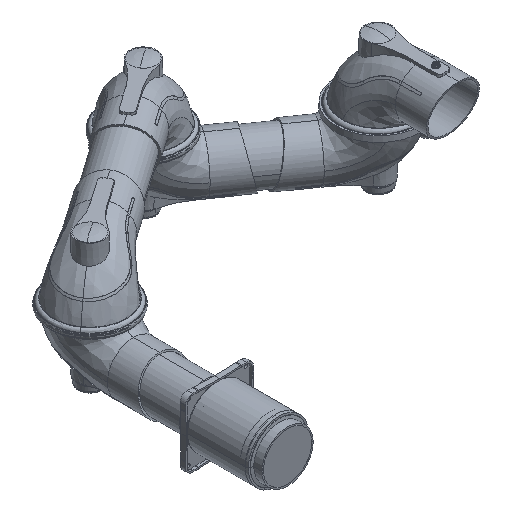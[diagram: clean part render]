
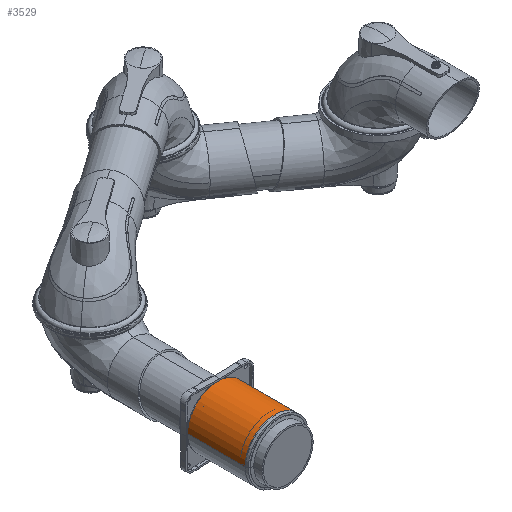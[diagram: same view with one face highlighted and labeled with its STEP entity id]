
A CAD part, isometric view. The second image highlights one B-rep face of the part: STEP entity #3529.
In plain terms, the highlighted cylindrical face has radius 62.5 mm (diameter 125 mm), a partial arc.
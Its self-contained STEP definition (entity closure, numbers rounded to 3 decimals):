
#3449=CARTESIAN_POINT('',(0.,0.,0.));
#3450=DIRECTION('',(1.,0.,0.));
#3451=DIRECTION('',(0.,1.,0.));
#3452=AXIS2_PLACEMENT_3D('',#3449,#3450,#3451);
#3457=DIRECTION('',(-1.,0.,0.));
#3458=VECTOR('',#3457,119.);
#3459=CARTESIAN_POINT('',(0.,62.5,0.));
#3460=LINE('',#3459,#3458);
#3464=DIRECTION('',(-1.,0.,0.));
#3465=VECTOR('',#3464,119.);
#3466=CARTESIAN_POINT('',(0.,-62.5,0.));
#3467=LINE('',#3466,#3465);
#3487=CARTESIAN_POINT('',(-119.,0.,0.));
#3488=DIRECTION('',(1.,0.,0.));
#3489=DIRECTION('',(0.,1.,0.));
#3490=AXIS2_PLACEMENT_3D('',#3487,#3488,#3489);
#3495=CARTESIAN_POINT('',(0.,62.5,0.));
#3496=CARTESIAN_POINT('',(-119.,62.5,0.));
#3497=VERTEX_POINT('',#3495);
#3498=VERTEX_POINT('',#3496);
#3499=CARTESIAN_POINT('',(0.,-62.5,0.));
#3500=CARTESIAN_POINT('',(-119.,-62.5,0.));
#3501=VERTEX_POINT('',#3499);
#3502=VERTEX_POINT('',#3500);
#3515=CARTESIAN_POINT('',(-124.95,0.,0.));
#3516=DIRECTION('',(1.,0.,0.));
#3517=DIRECTION('',(0.,-1.,0.));
#3518=AXIS2_PLACEMENT_3D('',#3515,#3516,#3517);
#3519=CYLINDRICAL_SURFACE('',#3518,62.5);
#3521=ORIENTED_EDGE('',*,*,#3520,.F.);
#3522=ORIENTED_EDGE('',*,*,#3508,.T.);
#3524=ORIENTED_EDGE('',*,*,#3523,.T.);
#3526=ORIENTED_EDGE('',*,*,#3525,.F.);
#3527=EDGE_LOOP('',(#3521,#3522,#3524,#3526));
#3528=FACE_OUTER_BOUND('',#3527,.F.);
#3453=CIRCLE('',#3452,62.5);
#3491=CIRCLE('',#3490,62.5);
#3508=EDGE_CURVE('',#3497,#3501,#3453,.T.);
#3520=EDGE_CURVE('',#3497,#3498,#3460,.T.);
#3523=EDGE_CURVE('',#3501,#3502,#3467,.T.);
#3525=EDGE_CURVE('',#3498,#3502,#3491,.T.);
#3529=ADVANCED_FACE('',(#3528),#3519,.T.);
